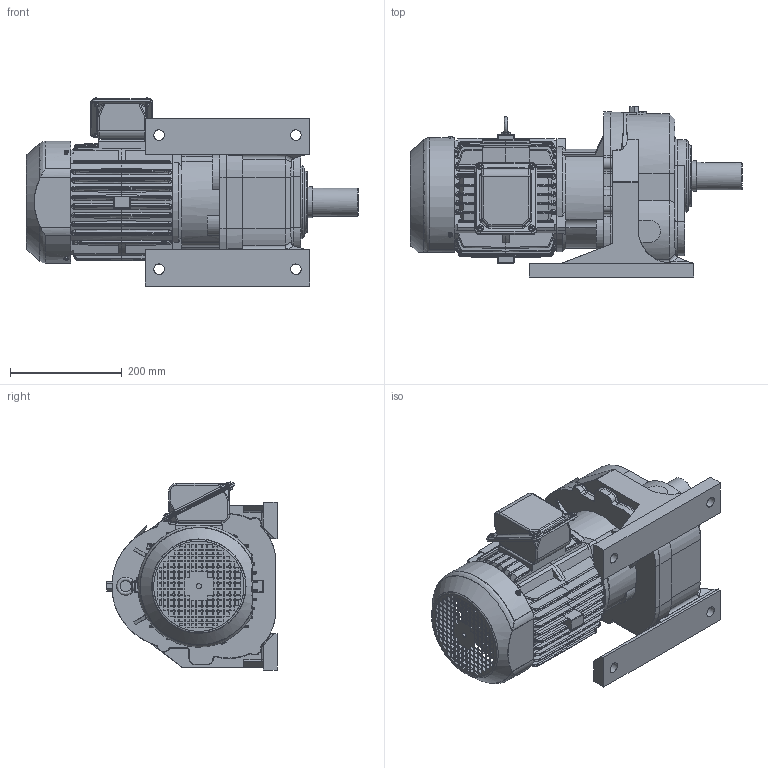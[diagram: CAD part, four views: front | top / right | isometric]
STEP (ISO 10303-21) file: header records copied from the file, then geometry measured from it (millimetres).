
FILE_DESCRIPTION (( 'STEP AP214' ), '1' );
FILE_NAME ('EK2DO07669H001F1HM_2.2KW_R40_CUSTOMER.stp', '2022-08-11T02:11:51', ( '' ), ( '' ), 'SwSTEP 2.0', 'SolidWorks 2021', '' );
FILE_SCHEMA (( 'AUTOMOTIVE_DESIGN' ));
Length unit declared in the file: millimetre
Products named in the file (1): EK2DO07669H001F1HM_2.2KW_R40_CUSTOMER
Bounding box: 594 x 305 x 336.46 mm (x, y, z)
Surface area: 1157235.5 mm2 (no closed solid volume)
Topology: 0 solids, 21 shells, 3259 faces, 8642 edges, 5435 vertices
Faces by surface type: cylinder 1344, plane 1305, bspline 550, cone 59, torus 1
Full cylindrical faces by diameter (mm): 4.917 x4, 5 x3, 6 x9, 6.647 x7, 7 x8, 8 x5, 9 x1, 10 x8, 10.5 x4, 13 x2, 16 x1, 18 x1, 19 x4, 19.242 x1, 40 x1, 45 x1, 50 x1, 55 x1, 110 x1, 130 x1, 182 x2
Entity records: 162816 total; most frequent: CARTESIAN_POINT 49117, ORIENTED_EDGE 16978, DIRECTION 15084, EDGE_CURVE 8493, VERTEX_POINT 5410, AXIS2_PLACEMENT_3D 5264, LINE 4556, VECTOR 4556
